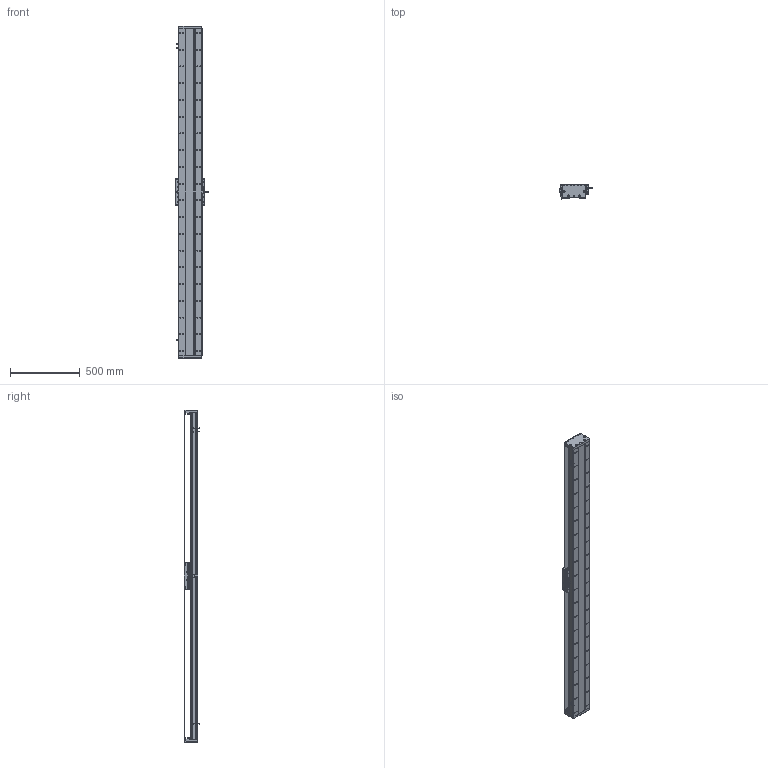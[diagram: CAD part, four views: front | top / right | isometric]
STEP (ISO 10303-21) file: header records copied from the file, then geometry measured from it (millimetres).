
FILE_DESCRIPTION (( 'STEP AP203' ), '1' );
FILE_NAME ('DA-C165-C2-T2100-C010-0.2 直线电机.STEP', '2023-05-11T07:45:32', ( '微软用户' ), ( '微软中国' ), 'SwSTEP 2.0', 'SolidWorks 2019', '' );
FILE_SCHEMA (( 'CONFIG_CONTROL_DESIGN' ));
Length unit declared in the file: millimetre
Products named in the file (18): 复件 DA165-GD-DG-H-00 端盖^复件 CU165钢带组件_DA-C165-C2-T-C010-0.2-N 直线电机; 复件 DA165-GDLK-00 钢带拉块^复件 CU165钢带组件_DA-C165-C2-T-C010-0.2-N 直线电机; 复件 DA165-GYP-00 光电感应片^DA-C165-C2-T-C010-0.2-N 直线电机; IU-CU165-L-00 菁釱_L2340; 复件 CKM02-W075-C1C2-TP-3.0 一体电机-C2^DA-C165-C2-T-C010-0.2-N 直线电机; 珨极趙賑雄怢啣wf-C2; 复件 DA165-GDYK-00 钢带压块^复件 CU165钢带组件_DA-C165-C2-T-C010-0.2-N 直线电机; 葩璃 PM-T45^DA-C165-C2-T-C010-0.2-N 眻盄萇儂; DA-C165-C2-T2100-C010-0.2 眻盄萇儂; 复件 CU165钢带组件^DA-C165-C2-T-C010-0.2-N 直线电机; IU-CU165-L 菁釱絳寢; 复件 DA165-GD-1860-002-00 钢带盖板^复件 CU165钢带组件_DA-C165-C2-T-C010-0.2-N 直线电机; 复件 DA95-HXJ-00 缓冲橡胶^DA-C165-C2-T-C010-0.2-N 直线电机; 复件 六角薄螺母 M3^DA-C165-C2-T-C010-0.2-N 直线电机_GB_FASTENER_NUT_STNAB M3-C; 复件 XD-U-02L 磁栅尺^DA-C165-C2-T-C010-0.2-N 直线电机_T; 葩璃 DA95-GT-T-00^IU-CU165-L 菁釱絳寢_T; 复件 DMA-010-0.2 读数头^DA-C165-C2-T-C010-0.2-N 直线电机; 葩璃 CKM01-W075-TRL^DA-C165-C2-T-C010-0.2-N 眻盄萇儂
Assembly tree (33 placements, depth 3):
  DA-C165-C2-T2100-C010-0.2 眻盄萇儂
    IU-CU165-L 菁釱絳寢
      IU-CU165-L-00 菁釱_L2340
      葩璃 DA95-GT-T-00^IU-CU165-L 菁釱絳寢_T  x4
    复件 XD-U-02L 磁栅尺^DA-C165-C2-T-C010-0.2-N 直线电机_T
    葩璃 PM-T45^DA-C165-C2-T-C010-0.2-N 眻盄萇儂  x3
    葩璃 CKM01-W075-TRL^DA-C165-C2-T-C010-0.2-N 眻盄萇儂
    复件 CU165钢带组件^DA-C165-C2-T-C010-0.2-N 直线电机
      复件 DA165-GD-DG-H-00 端盖^复件 CU165钢带组件_DA-C165-C2-T-C010-0.2-N 直线电机  x2
      复件 DA165-GDYK-00 钢带压块^复件 CU165钢带组件_DA-C165-C2-T-C010-0.2-N 直线电机  x2
      复件 DA165-GD-1860-002-00 钢带盖板^复件 CU165钢带组件_DA-C165-C2-T-C010-0.2-N 直线电机
      复件 DA165-GDLK-00 钢带拉块^复件 CU165钢带组件_DA-C165-C2-T-C010-0.2-N 直线电机  x2
    复件 DA95-HXJ-00 缓冲橡胶^DA-C165-C2-T-C010-0.2-N 直线电机  x4
    复件 DA165-GYP-00 光电感应片^DA-C165-C2-T-C010-0.2-N 直线电机
    复件 DMA-010-0.2 读数头^DA-C165-C2-T-C010-0.2-N 直线电机
    复件 CKM02-W075-C1C2-TP-3.0 一体电机-C2^DA-C165-C2-T-C010-0.2-N 直线电机
    复件 六角薄螺母 M3^DA-C165-C2-T-C010-0.2-N 直线电机_GB_FASTENER_NUT_STNAB M3-C  x6
    珨极趙賑雄怢啣wf-C2
Bounding box: 233 x 111.45 x 2380 mm (x, y, z)
Volume: 13419946.8 mm3; surface area: 4017309.9 mm2
Topology: 70 solids, 70 shells, 3771 faces, 10991 edges, 7009 vertices
Faces by surface type: cylinder 2197, plane 1094, cone 430, torus 46, sphere 4
Entity records: 125593 total; most frequent: CARTESIAN_POINT 33599, ORIENTED_EDGE 19154, DIRECTION 18523, EDGE_CURVE 9577, AXIS2_PLACEMENT_3D 7067, VERTEX_POINT 6245, LINE 4389, VECTOR 4389
